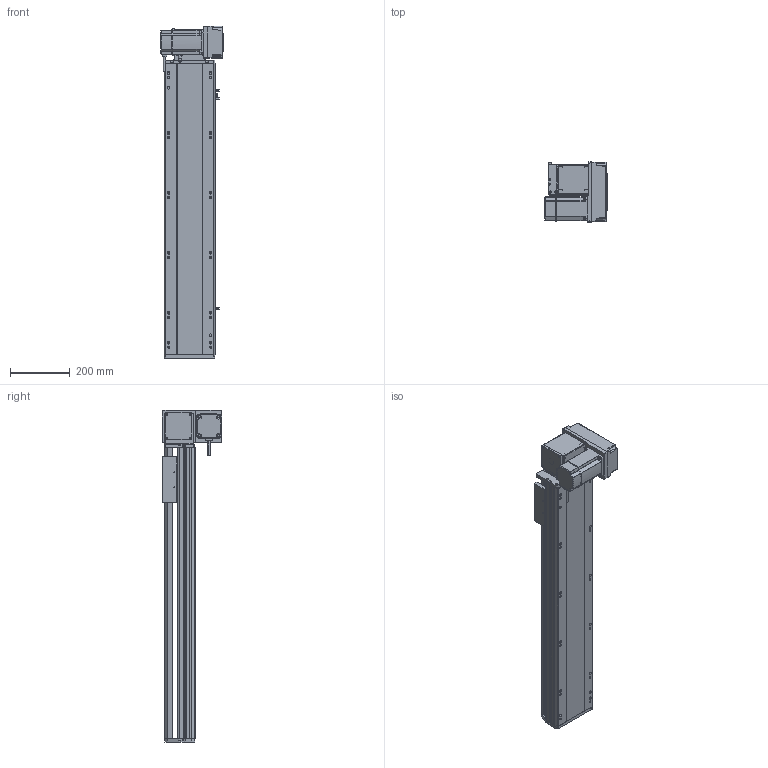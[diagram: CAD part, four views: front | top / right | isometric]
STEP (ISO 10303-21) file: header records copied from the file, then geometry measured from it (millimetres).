
FILE_DESCRIPTION (( 'STEP AP214' ), '1' );
FILE_NAME ('RTB17S-XX-700-RM-M75-C4.STEP', '2025-12-12T02:03:32', ( '' ), ( '' ), 'SwSTEP 2.0', 'SolidWorks 2018', '' );
FILE_SCHEMA (( 'AUTOMOTIVE_DESIGN' ));
Length unit declared in the file: millimetre
Products named in the file (15): RTB22S-GY-008-M75--萇儂啣^RTB17S-RM-々湍釱蚾饜-750W_RTB17S-XX-XX-RM-M75-C4; RTB17S-L-001-耜醱啣^RTB17S-XX-XX-RM-M75-C4; RTB22S-GY-017P^RTB17S-RM-々湍釱蚾饜-750W_RTB17S-XX-XX-RM-M75-C4; EE672^RTB17S-XX-XX-RM-M75-C4; 750W萇儂^RTB17S-XX-XX-RM-M75-C4; RTB22S-GY-005P^RTB17S-RM-々湍釱蚾饜-750W_RTB17S-XX-XX-RM-M75-C4; RTB17S-L-014-T20-P75--々湍釱^RTB17S-RM-々湍釱蚾饜-750W_RTB17S-XX-XX-RM-M75-C4; RTB17S-賑釱^RTB17S-XX-XX-RM-M75-C4; RTH13-BL-012覜茼え俋离^RTB17S-賑釱_RTB17S-XX-XX-RM-M75-C4; RTB17S-L-004-賑釱^RTB17S-賑釱_RTB17S-XX-XX-RM-M75-C4; RTB17S-XX-700-RM-M75-C4; RTB17S-RM-々湍釱蚾饜-750W^RTB17S-XX-XX-RM-M75-C4; RTB17S-L-007奻裔^RTB17S-XX-XX-RM-M75-C4; RTB22S-GY-018P^RTB17S-RM-々湍釱蚾饜-750W_RTB17S-XX-XX-RM-M75-C4; RTB17-R-011菁釱^RTB17S-XX-XX-RM-M75-C4
Assembly tree (17 placements, depth 3):
  RTB17S-XX-700-RM-M75-C4
    RTB17-R-011菁釱^RTB17S-XX-XX-RM-M75-C4
    EE672^RTB17S-XX-XX-RM-M75-C4  x3
    RTB17S-L-001-耜醱啣^RTB17S-XX-XX-RM-M75-C4
    RTB17S-賑釱^RTB17S-XX-XX-RM-M75-C4
      RTB17S-L-004-賑釱^RTB17S-賑釱_RTB17S-XX-XX-RM-M75-C4
      RTH13-BL-012覜茼え俋离^RTB17S-賑釱_RTB17S-XX-XX-RM-M75-C4
    RTB17S-L-007奻裔^RTB17S-XX-XX-RM-M75-C4
    750W萇儂^RTB17S-XX-XX-RM-M75-C4
    RTB17S-RM-々湍釱蚾饜-750W^RTB17S-XX-XX-RM-M75-C4
      RTB17S-L-014-T20-P75--々湍釱^RTB17S-RM-々湍釱蚾饜-750W_RTB17S-XX-XX-RM-M75-C4
      RTB22S-GY-005P^RTB17S-RM-々湍釱蚾饜-750W_RTB17S-XX-XX-RM-M75-C4
      RTB22S-GY-017P^RTB17S-RM-々湍釱蚾饜-750W_RTB17S-XX-XX-RM-M75-C4  x2
      RTB22S-GY-008-M75--萇儂啣^RTB17S-RM-々湍釱蚾饜-750W_RTB17S-XX-XX-RM-M75-C4
      RTB22S-GY-018P^RTB17S-RM-々湍釱蚾饜-750W_RTB17S-XX-XX-RM-M75-C4
Bounding box: 207.4 x 200 x 1107.5 mm (x, y, z)
Volume: 10323170.3 mm3; surface area: 1703319.6 mm2
Topology: 17 solids, 17 shells, 2073 faces, 5728 edges, 3698 vertices
Faces by surface type: plane 968, cylinder 689, bspline 294, cone 110, sphere 8, torus 4
Entity records: 57334 total; most frequent: CARTESIAN_POINT 16792, ORIENTED_EDGE 8300, DIRECTION 7772, EDGE_CURVE 4150, AXIS2_PLACEMENT_3D 2718, VERTEX_POINT 2702, LINE 2336, VECTOR 2336
